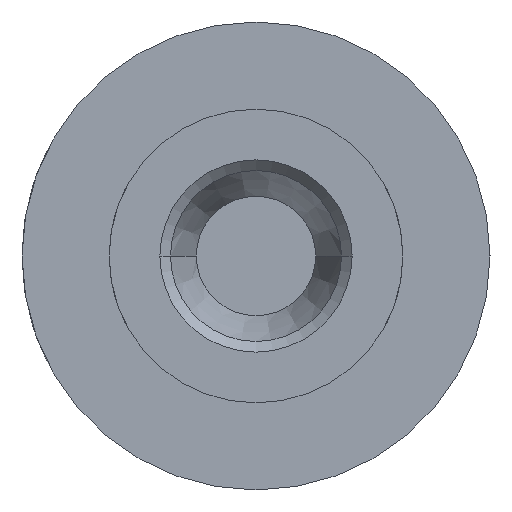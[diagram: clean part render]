
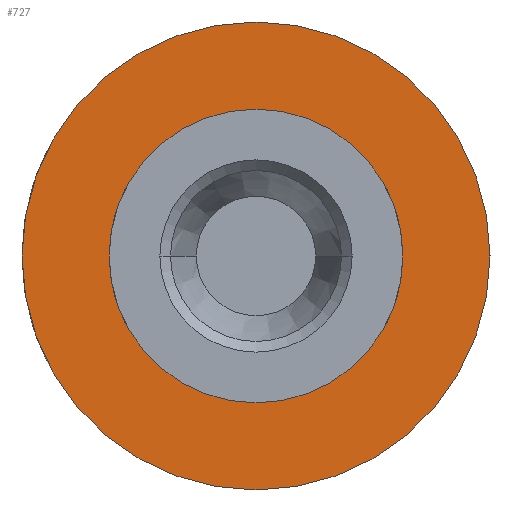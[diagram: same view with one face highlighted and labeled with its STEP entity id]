
A CAD part, left-side view. The second image highlights one B-rep face of the part: STEP entity #727.
In plain terms, the highlighted planar face has unit normal (-1, 0, 0).
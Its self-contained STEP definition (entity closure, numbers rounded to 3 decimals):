
#8 = DIRECTION ( 'NONE',  ( 1., 0., 0. ) ) ;
#13 = ORIENTED_EDGE ( 'NONE', *, *, #1401, .T. ) ;
#15 = AXIS2_PLACEMENT_3D ( 'NONE', #149, #1939, #960 ) ;
#77 = CARTESIAN_POINT ( 'NONE',  ( 38., -25.5, 0. ) ) ;
#136 = EDGE_CURVE ( 'NONE', #890, #333, #1720, .T. ) ;
#149 = CARTESIAN_POINT ( 'NONE',  ( 38., 20.75, 0. ) ) ;
#207 = FACE_OUTER_BOUND ( 'NONE', #1770, .T. ) ;
#289 = CIRCLE ( 'NONE', #642, 16. ) ;
#333 = VERTEX_POINT ( 'NONE', #1220 ) ;
#434 = ORIENTED_EDGE ( 'NONE', *, *, #1748, .F. ) ;
#585 = CARTESIAN_POINT ( 'NONE',  ( 38., 0., 0. ) ) ;
#625 = EDGE_CURVE ( 'NONE', #1730, #1560, #289, .T. ) ;
#635 = DIRECTION ( 'NONE',  ( 1., 0., 0. ) ) ;
#642 = AXIS2_PLACEMENT_3D ( 'NONE', #1711, #922, #2068 ) ;
#644 = DIRECTION ( 'NONE',  ( 0., 1., 0. ) ) ;
#659 = DIRECTION ( 'NONE',  ( 0., 1., 0. ) ) ;
#727 = ADVANCED_FACE ( 'NONE', ( #207, #1816 ), #808, .T. ) ;
#808 = PLANE ( 'NONE',  #15 ) ;
#843 = AXIS2_PLACEMENT_3D ( 'NONE', #1304, #8, #659 ) ;
#890 = VERTEX_POINT ( 'NONE', #77 ) ;
#922 = DIRECTION ( 'NONE',  ( 1., 0., 0. ) ) ;
#932 = CIRCLE ( 'NONE', #1969, 16. ) ;
#960 = DIRECTION ( 'NONE',  ( 0., 0., 1. ) ) ;
#991 = EDGE_LOOP ( 'NONE', ( #1588, #13 ) ) ;
#1120 = CARTESIAN_POINT ( 'NONE',  ( 38., 0., 0. ) ) ;
#1220 = CARTESIAN_POINT ( 'NONE',  ( 38., 25.5, 0. ) ) ;
#1304 = CARTESIAN_POINT ( 'NONE',  ( 38., 0., 0. ) ) ;
#1321 = AXIS2_PLACEMENT_3D ( 'NONE', #1120, #635, #644 ) ;
#1401 = EDGE_CURVE ( 'NONE', #1560, #1730, #932, .T. ) ;
#1546 = DIRECTION ( 'NONE',  ( 0., 1., 0. ) ) ;
#1559 = DIRECTION ( 'NONE',  ( 1., 0., 0. ) ) ;
#1560 = VERTEX_POINT ( 'NONE', #2036 ) ;
#1588 = ORIENTED_EDGE ( 'NONE', *, *, #625, .T. ) ;
#1711 = CARTESIAN_POINT ( 'NONE',  ( 38., 0., 0. ) ) ;
#1720 = CIRCLE ( 'NONE', #1321, 25.5 ) ;
#1730 = VERTEX_POINT ( 'NONE', #2101 ) ;
#1748 = EDGE_CURVE ( 'NONE', #333, #890, #1975, .T. ) ;
#1770 = EDGE_LOOP ( 'NONE', ( #434, #1830 ) ) ;
#1816 = FACE_BOUND ( 'NONE', #991, .T. ) ;
#1830 = ORIENTED_EDGE ( 'NONE', *, *, #136, .F. ) ;
#1939 = DIRECTION ( 'NONE',  ( -1., 0., 0. ) ) ;
#1969 = AXIS2_PLACEMENT_3D ( 'NONE', #585, #1559, #1546 ) ;
#1975 = CIRCLE ( 'NONE', #843, 25.5 ) ;
#2036 = CARTESIAN_POINT ( 'NONE',  ( 38., -16., 0. ) ) ;
#2068 = DIRECTION ( 'NONE',  ( 0., 1., 0. ) ) ;
#2101 = CARTESIAN_POINT ( 'NONE',  ( 38., 16., 0. ) ) ;
